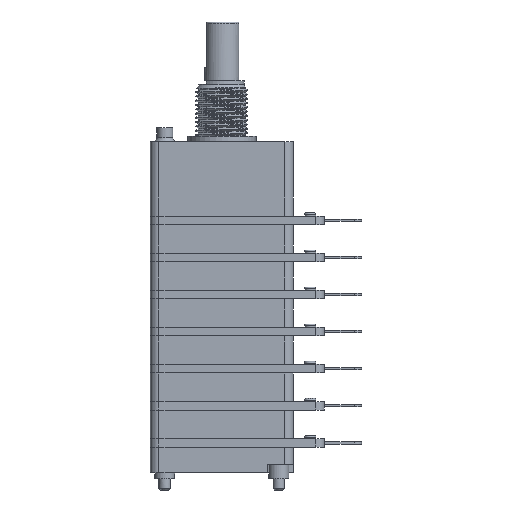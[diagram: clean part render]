
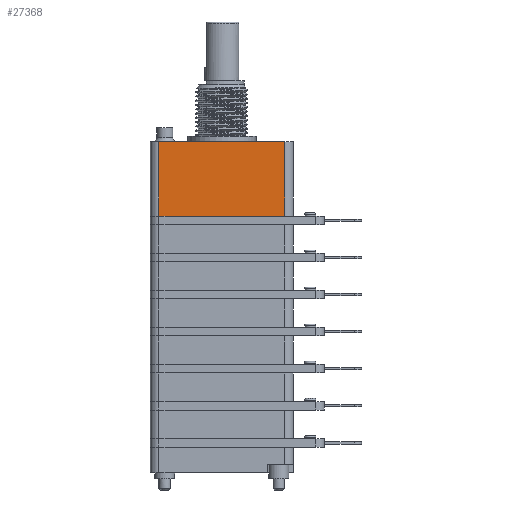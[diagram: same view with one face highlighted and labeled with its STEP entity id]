
A CAD part, left-side view. The second image highlights one B-rep face of the part: STEP entity #27368.
In plain terms, the highlighted planar face has unit normal (-1, 0, 0).
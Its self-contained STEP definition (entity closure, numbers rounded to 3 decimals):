
#23722 = PLANE('',#23723);
#23723 = AXIS2_PLACEMENT_3D('',#23724,#23725,#23726);
#23724 = CARTESIAN_POINT('',(-12.5,-18.,-15.5));
#23725 = DIRECTION('',(1.,0.,0.));
#23726 = DIRECTION('',(0.,0.,1.));
#25443 = VERTEX_POINT('',#25444);
#25444 = CARTESIAN_POINT('',(-12.5,-11.,-14.));
#25611 = CYLINDRICAL_SURFACE('',#25612,1.5);
#25612 = AXIS2_PLACEMENT_3D('',#25613,#25614,#25615);
#25613 = CARTESIAN_POINT('',(-11.,-11.,-14.));
#25614 = DIRECTION('',(0.,0.,1.));
#25615 = DIRECTION('',(-1.,0.,0.));
#25749 = PLANE('',#25750);
#25750 = AXIS2_PLACEMENT_3D('',#25751,#25752,#25753);
#25751 = CARTESIAN_POINT('',(-12.5,-12.5,-1.));
#25752 = DIRECTION('',(0.,0.,1.));
#25753 = DIRECTION('',(1.,0.,0.));
#25891 = VERTEX_POINT('',#25892);
#25892 = CARTESIAN_POINT('',(-12.5,11.,-14.));
#25906 = CYLINDRICAL_SURFACE('',#25907,1.5);
#25907 = AXIS2_PLACEMENT_3D('',#25908,#25909,#25910);
#25908 = CARTESIAN_POINT('',(-11.,11.,-14.));
#25909 = DIRECTION('',(0.,0.,1.));
#25910 = DIRECTION('',(-1.,0.,0.));
#26016 = EDGE_CURVE('',#25443,#25891,#26017,.T.);
#26017 = SURFACE_CURVE('',#26018,(#26022,#26029),.PCURVE_S1.);
#26018 = LINE('',#26019,#26020);
#26019 = CARTESIAN_POINT('',(-12.5,-12.5,-14.));
#26020 = VECTOR('',#26021,1.);
#26021 = DIRECTION('',(0.,1.,0.));
#26022 = PCURVE('',#23722,#26023);
#26023 = DEFINITIONAL_REPRESENTATION('',(#26024),#26028);
#26024 = LINE('',#26025,#26026);
#26025 = CARTESIAN_POINT('',(1.5,-5.5));
#26026 = VECTOR('',#26027,1.);
#26027 = DIRECTION('',(0.,-1.));
#26028 = ( GEOMETRIC_REPRESENTATION_CONTEXT(2) 
PARAMETRIC_REPRESENTATION_CONTEXT() REPRESENTATION_CONTEXT('2D SPACE',''
  ) );
#26029 = PCURVE('',#26030,#26035);
#26030 = PLANE('',#26031);
#26031 = AXIS2_PLACEMENT_3D('',#26032,#26033,#26034);
#26032 = CARTESIAN_POINT('',(-12.5,-12.5,-14.));
#26033 = DIRECTION('',(1.,0.,0.));
#26034 = DIRECTION('',(0.,0.,1.));
#26035 = DEFINITIONAL_REPRESENTATION('',(#26036),#26040);
#26036 = LINE('',#26037,#26038);
#26037 = CARTESIAN_POINT('',(0.,0.));
#26038 = VECTOR('',#26039,1.);
#26039 = DIRECTION('',(0.,-1.));
#26040 = ( GEOMETRIC_REPRESENTATION_CONTEXT(2) 
PARAMETRIC_REPRESENTATION_CONTEXT() REPRESENTATION_CONTEXT('2D SPACE',''
  ) );
#26866 = VERTEX_POINT('',#26867);
#26867 = CARTESIAN_POINT('',(-12.5,-11.,-1.));
#26889 = EDGE_CURVE('',#25443,#26866,#26890,.T.);
#26890 = SURFACE_CURVE('',#26891,(#26895,#26902),.PCURVE_S1.);
#26891 = LINE('',#26892,#26893);
#26892 = CARTESIAN_POINT('',(-12.5,-11.,-14.));
#26893 = VECTOR('',#26894,1.);
#26894 = DIRECTION('',(0.,0.,1.));
#26895 = PCURVE('',#25611,#26896);
#26896 = DEFINITIONAL_REPRESENTATION('',(#26897),#26901);
#26897 = LINE('',#26898,#26899);
#26898 = CARTESIAN_POINT('',(0.,0.));
#26899 = VECTOR('',#26900,1.);
#26900 = DIRECTION('',(0.,1.));
#26901 = ( GEOMETRIC_REPRESENTATION_CONTEXT(2) 
PARAMETRIC_REPRESENTATION_CONTEXT() REPRESENTATION_CONTEXT('2D SPACE',''
  ) );
#26902 = PCURVE('',#26030,#26903);
#26903 = DEFINITIONAL_REPRESENTATION('',(#26904),#26908);
#26904 = LINE('',#26905,#26906);
#26905 = CARTESIAN_POINT('',(0.,-1.5));
#26906 = VECTOR('',#26907,1.);
#26907 = DIRECTION('',(1.,0.));
#26908 = ( GEOMETRIC_REPRESENTATION_CONTEXT(2) 
PARAMETRIC_REPRESENTATION_CONTEXT() REPRESENTATION_CONTEXT('2D SPACE',''
  ) );
#27155 = EDGE_CURVE('',#26866,#27156,#27158,.T.);
#27156 = VERTEX_POINT('',#27157);
#27157 = CARTESIAN_POINT('',(-12.5,11.,-1.));
#27158 = SURFACE_CURVE('',#27159,(#27163,#27170),.PCURVE_S1.);
#27159 = LINE('',#27160,#27161);
#27160 = CARTESIAN_POINT('',(-12.5,-12.5,-1.));
#27161 = VECTOR('',#27162,1.);
#27162 = DIRECTION('',(0.,1.,0.));
#27163 = PCURVE('',#25749,#27164);
#27164 = DEFINITIONAL_REPRESENTATION('',(#27165),#27169);
#27165 = LINE('',#27166,#27167);
#27166 = CARTESIAN_POINT('',(0.,0.));
#27167 = VECTOR('',#27168,1.);
#27168 = DIRECTION('',(0.,1.));
#27169 = ( GEOMETRIC_REPRESENTATION_CONTEXT(2) 
PARAMETRIC_REPRESENTATION_CONTEXT() REPRESENTATION_CONTEXT('2D SPACE',''
  ) );
#27170 = PCURVE('',#26030,#27171);
#27171 = DEFINITIONAL_REPRESENTATION('',(#27172),#27176);
#27172 = LINE('',#27173,#27174);
#27173 = CARTESIAN_POINT('',(13.,0.));
#27174 = VECTOR('',#27175,1.);
#27175 = DIRECTION('',(0.,-1.));
#27176 = ( GEOMETRIC_REPRESENTATION_CONTEXT(2) 
PARAMETRIC_REPRESENTATION_CONTEXT() REPRESENTATION_CONTEXT('2D SPACE',''
  ) );
#27348 = EDGE_CURVE('',#25891,#27156,#27349,.T.);
#27349 = SURFACE_CURVE('',#27350,(#27354,#27361),.PCURVE_S1.);
#27350 = LINE('',#27351,#27352);
#27351 = CARTESIAN_POINT('',(-12.5,11.,-14.));
#27352 = VECTOR('',#27353,1.);
#27353 = DIRECTION('',(0.,0.,1.));
#27354 = PCURVE('',#25906,#27355);
#27355 = DEFINITIONAL_REPRESENTATION('',(#27356),#27360);
#27356 = LINE('',#27357,#27358);
#27357 = CARTESIAN_POINT('',(-0.,0.));
#27358 = VECTOR('',#27359,1.);
#27359 = DIRECTION('',(-0.,1.));
#27360 = ( GEOMETRIC_REPRESENTATION_CONTEXT(2) 
PARAMETRIC_REPRESENTATION_CONTEXT() REPRESENTATION_CONTEXT('2D SPACE',''
  ) );
#27361 = PCURVE('',#26030,#27362);
#27362 = DEFINITIONAL_REPRESENTATION('',(#27363),#27367);
#27363 = LINE('',#27364,#27365);
#27364 = CARTESIAN_POINT('',(0.,-23.5));
#27365 = VECTOR('',#27366,1.);
#27366 = DIRECTION('',(1.,0.));
#27367 = ( GEOMETRIC_REPRESENTATION_CONTEXT(2) 
PARAMETRIC_REPRESENTATION_CONTEXT() REPRESENTATION_CONTEXT('2D SPACE',''
  ) );
#27368 = ADVANCED_FACE('',(#27369),#26030,.F.);
#27369 = FACE_BOUND('',#27370,.F.);
#27370 = EDGE_LOOP('',(#27371,#27372,#27373,#27374));
#27371 = ORIENTED_EDGE('',*,*,#27155,.F.);
#27372 = ORIENTED_EDGE('',*,*,#26889,.F.);
#27373 = ORIENTED_EDGE('',*,*,#26016,.T.);
#27374 = ORIENTED_EDGE('',*,*,#27348,.T.);
